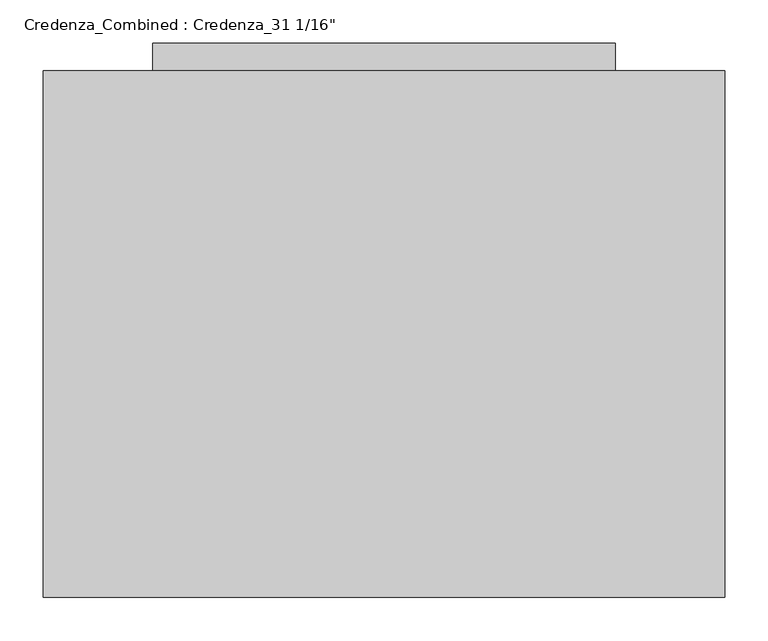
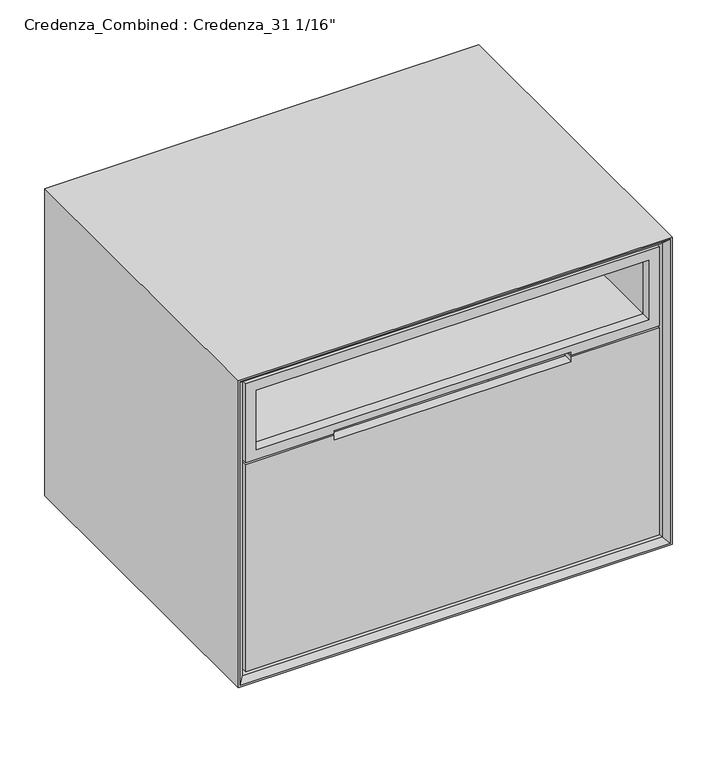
"""IFC4 building model written with IfcOpenShell, lengths in millimetres: furniture geometry."""

from ifc_helpers import new_model, si_unit, frame, origin, origin_with_axes, place, context, project, spatial, polyline, outline, extrude, faceted_brep, source, transform, mapped, element, save


def furniture_2f4b90cd(model_context):
    return source(origin(), model_context, "Body", "SolidModel", [
        extrude(outline(polyline([(661.9875, 609.6), (661.9875, 241.3), (127.0, 241.3), (127.0, 609.6), (661.9875, 609.6)])), origin_with_axes(), (0.0, 0.0, 1.0), 87.3125),
        extrude(outline(polyline([(661.9875, 641.35), (661.9875, 609.6), (127.0, 609.6), (127.0, 641.35), (661.9875, 641.35)])), origin_with_axes(), (0.0, 0.0, 1.0), 647.7),
        extrude(outline(polyline([(665.1625, 776.2875), (665.1625, 12.7), (100.0125, 12.7), (100.0125, 776.2875), (665.1625, 776.2875)]), holes=[polyline([(646.1125, 31.75), (646.1125, 757.2375), (119.0625, 757.2375), (119.0625, 31.75), (646.1125, 31.75)])]), frame((0.0, 31.75, 0.0), z_axis=(0.0, 1.0, 0.0), x_axis=(0.0, 0.0, 1.0)), (0.0, 0.0, 1.0), 577.85),
        faceted_brep([(776.2875, 9.525, 665.1625), (776.2875, 609.6, 665.1625), (776.2875, 609.6, 100.0125), (776.2875, 9.525, 100.0125), (785.8125, 0.0, 674.6875), (785.8125, 0.0, 90.4875), (788.9875, 609.6, 677.8625), (788.9875, 0.0, 677.8625), (788.9875, 0.0, 87.3125), (788.9875, 609.6, 87.3125), (12.7, 609.6, 100.0125), (12.7, 9.525, 100.0125), (3.175, 0.0, 90.4875), (0.0, 0.0, 87.3125), (0.0, 609.6, 87.3125), (12.7, 609.6, 665.1625), (12.7, 9.525, 665.1625), (3.175, 0.0, 674.6875), (0.0, 0.0, 677.8625), (0.0, 609.6, 677.8625)], [[[0, 1, 2, 3]], [[4, 0, 3, 5]], [[6, 7, 8, 9]], [[3, 2, 10, 11]], [[5, 3, 11, 12]], [[9, 8, 13, 14]], [[11, 10, 15, 16]], [[12, 11, 16, 17]], [[14, 13, 18, 19]], [[9, 14, 19, 6], [1, 15, 10, 2]], [[16, 15, 1, 0]], [[17, 16, 0, 4]], [[7, 18, 13, 8], [5, 12, 17, 4]], [[19, 18, 7, 6]]]),
        extrude(outline(polyline([(754.0625, 609.6), (754.0625, 28.575), (36.5125, 28.575), (36.5125, 609.6), (754.0625, 609.6)]), holes=[polyline([(49.2125, 596.9), (49.2125, 41.275), (739.775, 41.275), (739.775, 596.9), (49.2125, 596.9)])]), frame((0.0, 0.0, 118.26875), z_axis=(0.0, 0.0, 1.0), x_axis=(1.0, 0.0, 0.0)), (0.0, 0.0, 1.0), 360.3625),
        extrude(outline(polyline([(642.14375, 754.0625), (642.14375, 36.5125), (524.66875, 36.5125), (524.66875, 754.0625), (642.14375, 754.0625)]), holes=[polyline([(640.55625, 752.475), (526.25625, 752.475), (526.25625, 38.1), (640.55625, 38.1), (640.55625, 752.475)])]), frame((0.0, 28.575, 0.0), z_axis=(0.0, 1.0, 0.0), x_axis=(0.0, 0.0, 1.0)), (0.0, 0.0, 1.0), 581.025),
        extrude(outline(polyline([(504.03125, 19.05), (105.56875, 19.05), (105.56875, 771.525), (504.03125, 771.525), (504.03125, 611.1875), (494.7030946, 611.1875), (494.7030946, 179.3875), (504.03125, 179.3875), (504.03125, 19.05)])), frame((0.0, 9.525, 0.0), z_axis=(0.0, 1.0, 0.0), x_axis=(0.0, 0.0, 1.0)), (0.0, 0.0, 1.0), 19.05),
        extrude(outline(polyline([(659.60625, 771.525), (659.60625, 19.05), (507.20625, 19.05), (507.20625, 179.3875), (513.3594054, 179.3875), (513.3594054, 611.1875), (507.20625, 611.1875), (507.20625, 771.525), (659.60625, 771.525)]), holes=[polyline([(640.55625, 38.1), (640.55625, 752.475), (526.25625, 752.475), (526.25625, 38.1), (640.55625, 38.1)])]), frame((0.0, 9.525, 0.0), z_axis=(0.0, 1.0, 0.0), x_axis=(0.0, 0.0, 1.0)), (0.0, 0.0, 1.0), 19.05),
    ])


if __name__ == "__main__":
    model = new_model("IFC4")
    model_context = context("Model", 3, world=origin())
    ifc_project = project(units=[si_unit("LENGTHUNIT", "METRE", prefix="MILLI")], contexts=[model_context])
    site = spatial("IfcSite", under=ifc_project)
    building = spatial("IfcBuilding", under=site)
    placement = place(None, origin())
    furniture_shape = furniture_2f4b90cd(model_context)
    element("IfcFurniture", 1, ObjectType="Credenza_Combined : Credenza_31 1/16\"", at=placement, inside=building, context=model_context, shape_type="MappedRepresentation", body=[
        mapped(furniture_shape, transform((0.0, 0.0, 0.0), x_axis=(1.0, 0.0, 0.0), y_axis=(0.0, 1.0, 0.0), z_axis=(0.0, 0.0, 1.0))),
    ])
    save(model, "model.ifc")
